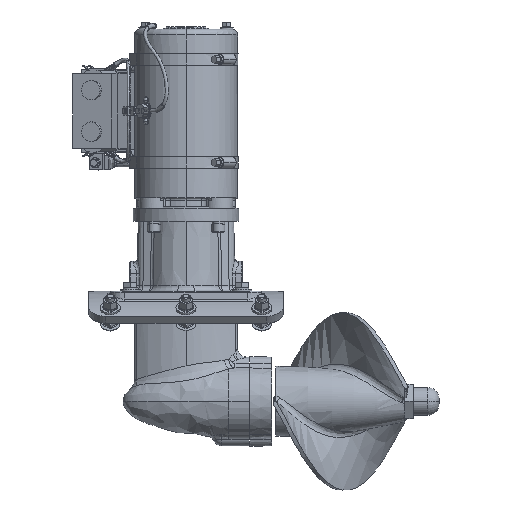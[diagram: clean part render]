
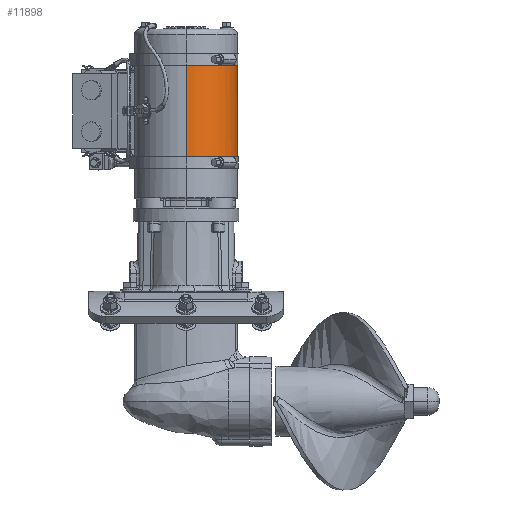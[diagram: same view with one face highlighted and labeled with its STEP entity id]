
A CAD part, top view. The second image highlights one B-rep face of the part: STEP entity #11898.
In plain terms, the highlighted cylindrical face has radius 57.15 mm (diameter 114.3 mm), a partial arc.
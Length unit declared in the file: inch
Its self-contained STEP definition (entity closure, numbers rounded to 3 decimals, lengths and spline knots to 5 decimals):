
#1169 = CARTESIAN_POINT ( 'NONE',  ( -6.37185, 14.50552, -2.22066 ) ) ;
#3285 = CARTESIAN_POINT ( 'NONE',  ( -6.53407, 13.98659, -2.24109 ) ) ;
#3821 = CARTESIAN_POINT ( 'NONE',  ( -6.34738, 14.22897, -2.21645 ) ) ;
#5056 = LINE ( 'NONE', #37807, #89135 ) ;
#6125 = B_SPLINE_CURVE_WITH_KNOTS ( 'NONE', 3,
 ( #17305, #50112, #82873, #9274, #42009, #74804, #1169, #33945, #66763, #99563, #25870, #58706, #91484, #17836, #50638, #83389 ),
 .UNSPECIFIED., .F., .F.,
 ( 4, 2, 2, 2, 2, 2, 2, 4 ),
 ( 0.03183, 0.03318, 0.03453, 0.03723, 0.03858, 0.03993, 0.04128, 0.04263 ),
 .UNSPECIFIED. ) ;
#9274 = CARTESIAN_POINT ( 'NONE',  ( -6.34039, 14.40367, -2.21522 ) ) ;
#11000 = DIRECTION ( 'NONE',  ( 0., 0., 1. ) ) ;
#11130 = AXIS2_PLACEMENT_3D ( 'NONE', #59899, #84600, #11000 ) ;
#11343 = CARTESIAN_POINT ( 'NONE',  ( -6.60552, 13.95346, -2.24643 ) ) ;
#11878 = CARTESIAN_POINT ( 'NONE',  ( -6.37566, 14.15579, -2.22121 ) ) ;
#11898 = ADVANCED_FACE ( 'Defeatured_681', ( #63244 ), #96037, .T. ) ;
#13928 = ORIENTED_EDGE ( 'NONE', *, *, #18853, .F. ) ;
#14146 = CARTESIAN_POINT ( 'NONE',  ( -6.54085, 14.683, -2.24165 ) ) ;
#14887 = CARTESIAN_POINT ( 'NONE',  ( -6.7345, 10.683, 2.25 ) ) ;
#17305 = CARTESIAN_POINT ( 'NONE',  ( -6.3345, 14.333, -2.21416 ) ) ;
#17836 = CARTESIAN_POINT ( 'NONE',  ( -6.51052, 14.66489, -2.23887 ) ) ;
#18853 = EDGE_CURVE ( 'NONE', #36397, #31881, #104793, .T. ) ;
#19399 = CARTESIAN_POINT ( 'NONE',  ( -6.70836, 13.933, -2.25 ) ) ;
#19918 = CARTESIAN_POINT ( 'NONE',  ( -6.41649, 14.08898, -2.22746 ) ) ;
#22262 = CIRCLE ( 'NONE', #82342, 2.25 ) ;
#22374 = CARTESIAN_POINT ( 'NONE',  ( -6.7345, 6.808, 0. ) ) ;
#24412 = EDGE_CURVE ( 'Defeatured_681+Defeatured_682+Defeatured_68281+Defeatured_68281', #38270, #38511, #6125, .T. ) ;
#25151 = DIRECTION ( 'NONE',  ( 0., 1., 0. ) ) ;
#25870 = CARTESIAN_POINT ( 'NONE',  ( -6.44287, 14.60734, -2.23106 ) ) ;
#27973 = CARTESIAN_POINT ( 'NONE',  ( -6.47064, 14.03209, -2.2345 ) ) ;
#28502 = CARTESIAN_POINT ( 'NONE',  ( -6.3345, 14.31994, -2.21416 ) ) ;
#28700 = VERTEX_POINT ( 'NONE', #64140 ) ;
#30159 = EDGE_LOOP ( 'NONE', ( #59169, #73810, #43533, #36181, #98718, #13928 ) ) ;
#31129 = CARTESIAN_POINT ( 'NONE',  ( -6.7345, 6.808, 2.25 ) ) ;
#31881 = VERTEX_POINT ( 'NONE', #98023 ) ;
#33945 = CARTESIAN_POINT ( 'NONE',  ( -6.39912, 14.55172, -2.22488 ) ) ;
#34732 = CARTESIAN_POINT ( 'NONE',  ( -6.7345, 13.933, -2.25 ) ) ;
#36037 = CARTESIAN_POINT ( 'NONE',  ( -6.52289, 13.99331, -2.24005 ) ) ;
#36181 = ORIENTED_EDGE ( 'NONE', *, *, #24412, .T. ) ;
#36397 = VERTEX_POINT ( 'NONE', #14887 ) ;
#36579 = CARTESIAN_POINT ( 'NONE',  ( -6.33968, 14.26749, -2.21509 ) ) ;
#36718 = EDGE_CURVE ( 'NONE', #28700, #54969, #5056, .T. ) ;
#37807 = CARTESIAN_POINT ( 'NONE',  ( -6.7345, 6.808, -2.25 ) ) ;
#38270 = VERTEX_POINT ( 'NONE', #42666 ) ;
#38511 = VERTEX_POINT ( 'NONE', #14146 ) ;
#41022 = EDGE_CURVE ( 'Defeatured_68281+Defeatured_681+Defeatured_68283+Defeatured_682', #31881, #38511, #22262, .T. ) ;
#42009 = CARTESIAN_POINT ( 'NONE',  ( -6.34397, 14.42136, -2.21585 ) ) ;
#42666 = CARTESIAN_POINT ( 'NONE',  ( -6.3345, 14.333, -2.21416 ) ) ;
#43533 = ORIENTED_EDGE ( 'NONE', *, *, #52346, .T. ) ;
#44100 = CARTESIAN_POINT ( 'NONE',  ( -6.56916, 13.96854, -2.24395 ) ) ;
#44651 = CARTESIAN_POINT ( 'NONE',  ( -6.36999, 14.16776, -2.22028 ) ) ;
#50112 = CARTESIAN_POINT ( 'NONE',  ( -6.3345, 14.35074, -2.21416 ) ) ;
#50638 = CARTESIAN_POINT ( 'NONE',  ( -6.52539, 14.67445, -2.24032 ) ) ;
#52199 = CARTESIAN_POINT ( 'NONE',  ( -6.6818, 13.93562, -2.24953 ) ) ;
#52346 = EDGE_CURVE ( 'Defeatured_681+Defeatured_682+Defeatured_68281+Defeatured_68281', #54969, #38270, #62510, .T. ) ;
#52717 = CARTESIAN_POINT ( 'NONE',  ( -6.39478, 14.12144, -2.22422 ) ) ;
#54969 = VERTEX_POINT ( 'NONE', #34732 ) ;
#55196 = DIRECTION ( 'NONE',  ( 0., 1., 0. ) ) ;
#57491 = CIRCLE ( 'NONE', #11130, 2.25 ) ;
#58002 = DIRECTION ( 'NONE',  ( 0., 0., 1. ) ) ;
#58706 = CARTESIAN_POINT ( 'NONE',  ( -6.46827, 14.63206, -2.23423 ) ) ;
#59169 = ORIENTED_EDGE ( 'NONE', *, *, #88762, .T. ) ;
#59899 = CARTESIAN_POINT ( 'NONE',  ( -6.7345, 10.683, 0. ) ) ;
#60796 = CARTESIAN_POINT ( 'NONE',  ( -6.46089, 14.04092, -2.23332 ) ) ;
#61311 = CARTESIAN_POINT ( 'NONE',  ( -6.3345, 14.333, -2.21416 ) ) ;
#62510 = B_SPLINE_CURVE_WITH_KNOTS ( 'NONE', 3,
 ( #101101, #19399, #52199, #84947, #11343, #44100, #76902, #3285, #36037, #68863, #101653, #27973, #60796, #93561, #19918, #52717, #85471, #11878, #44651, #77444, #3821, #36579, #69395, #102195, #28502, #61311 ),
 .UNSPECIFIED., .F., .F.,
 ( 4, 2, 2, 2, 2, 2, 2, 2, 2, 2, 2, 2, 4 ),
 ( 0.01592, 0.01791, 0.0199, 0.02089, 0.02188, 0.02288, 0.02387, 0.02586, 0.02686, 0.02785, 0.02984, 0.03083, 0.03183 ),
 .UNSPECIFIED. ) ;
#63244 = FACE_OUTER_BOUND ( 'NONE', #30159, .T. ) ;
#63949 = DIRECTION ( 'NONE',  ( 0., 1., 0. ) ) ;
#64140 = CARTESIAN_POINT ( 'NONE',  ( -6.7345, 10.683, -2.25 ) ) ;
#64745 = VECTOR ( 'NONE', #63949, 39.37008 ) ;
#66763 = CARTESIAN_POINT ( 'NONE',  ( -6.4092, 14.56644, -2.22639 ) ) ;
#68863 = CARTESIAN_POINT ( 'NONE',  ( -6.50126, 14.00778, -2.2379 ) ) ;
#69395 = CARTESIAN_POINT ( 'NONE',  ( -6.33773, 14.28059, -2.21474 ) ) ;
#70609 = DIRECTION ( 'NONE',  ( 0., 1., 0. ) ) ;
#73810 = ORIENTED_EDGE ( 'NONE', *, *, #36718, .T. ) ;
#74804 = CARTESIAN_POINT ( 'NONE',  ( -6.35808, 14.47293, -2.21831 ) ) ;
#76902 = CARTESIAN_POINT ( 'NONE',  ( -6.55718, 13.97421, -2.24303 ) ) ;
#77444 = CARTESIAN_POINT ( 'NONE',  ( -6.35496, 14.20403, -2.21778 ) ) ;
#82342 = AXIS2_PLACEMENT_3D ( 'NONE', #98844, #25151, #58002 ) ;
#82873 = CARTESIAN_POINT ( 'NONE',  ( -6.33567, 14.36842, -2.21437 ) ) ;
#83389 = CARTESIAN_POINT ( 'NONE',  ( -6.54085, 14.683, -2.24165 ) ) ;
#84600 = DIRECTION ( 'NONE',  ( 0., 1., 0. ) ) ;
#84947 = CARTESIAN_POINT ( 'NONE',  ( -6.63047, 13.94588, -2.24774 ) ) ;
#85471 = CARTESIAN_POINT ( 'NONE',  ( -6.38806, 14.13263, -2.22318 ) ) ;
#87947 = DIRECTION ( 'NONE',  ( 0., 0., 1. ) ) ;
#88762 = EDGE_CURVE ( 'Defeatured_681+Defeatured_68286+Defeatured_68292+Defeatured_68293', #36397, #28700, #57491, .T. ) ;
#89135 = VECTOR ( 'NONE', #70609, 39.37008 ) ;
#91484 = CARTESIAN_POINT ( 'NONE',  ( -6.48197, 14.64371, -2.23583 ) ) ;
#93561 = CARTESIAN_POINT ( 'NONE',  ( -6.43299, 14.06884, -2.22979 ) ) ;
#96037 = CYLINDRICAL_SURFACE ( 'NONE', #104574, 2.25 ) ;
#98023 = CARTESIAN_POINT ( 'NONE',  ( -6.7345, 14.683, 2.25 ) ) ;
#98718 = ORIENTED_EDGE ( 'NONE', *, *, #41022, .F. ) ;
#98844 = CARTESIAN_POINT ( 'NONE',  ( -6.7345, 14.683, 0. ) ) ;
#99563 = CARTESIAN_POINT ( 'NONE',  ( -6.43106, 14.59422, -2.22947 ) ) ;
#101101 = CARTESIAN_POINT ( 'NONE',  ( -6.7345, 13.933, -2.25 ) ) ;
#101653 = CARTESIAN_POINT ( 'NONE',  ( -6.49081, 14.01553, -2.23679 ) ) ;
#102195 = CARTESIAN_POINT ( 'NONE',  ( -6.33514, 14.30684, -2.21427 ) ) ;
#104574 = AXIS2_PLACEMENT_3D ( 'NONE', #22374, #55196, #87947 ) ;
#104793 = LINE ( 'NONE', #31129, #64745 ) ;
